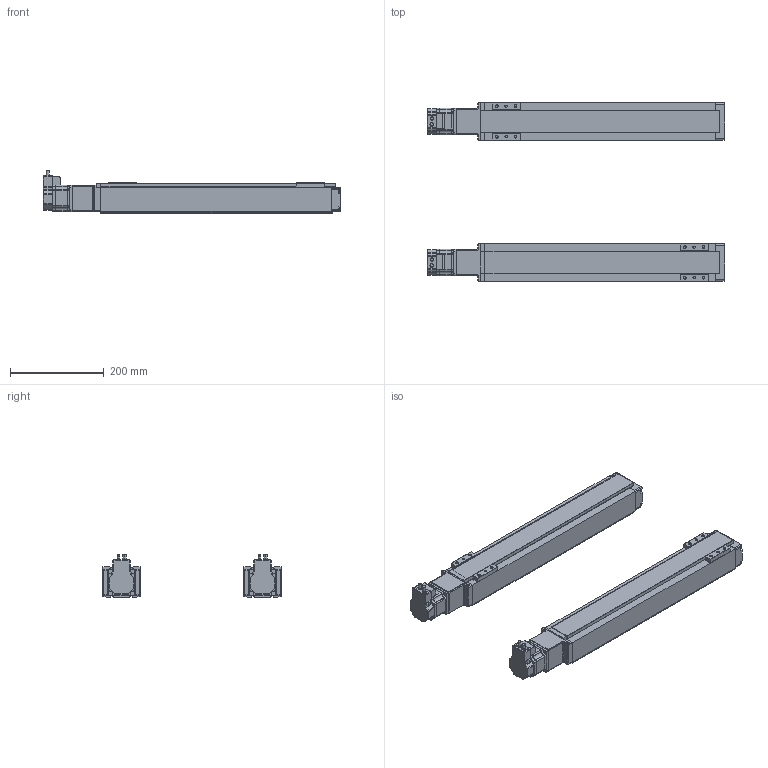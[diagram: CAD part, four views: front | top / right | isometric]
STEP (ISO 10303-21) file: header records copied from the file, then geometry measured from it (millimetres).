
FILE_DESCRIPTION(('FreeCAD Model'),'2;1');
FILE_NAME('Open CASCADE Shape Model','2023-08-01T15:16:38',('Author'),( ''),'Open CASCADE STEP processor 7.5','FreeCAD','Unknown');
FILE_SCHEMA(('AUTOMOTIVE_DESIGN { 1 0 10303 214 1 1 1 1 }'));
Length unit declared in the file: millimetre
Products named in the file (47): Unnamed; Shapes; Shapes001; Shapes002; Shapes003; Shapes004; Shapes005; Shapes006; Shapes007; Shapes008; Shapes009; Shapes010; Shapes011; Shapes012; Shapes013; Shapes014; Shapes015; Shapes016; Shapes017; Shapes018; Shapes019; Shapes020; Shapes021; Shapes022; Shapes023; Shapes024; Shapes025; Shapes026; Shapes027; Shapes028; Shapes029; Shapes030; Shapes031; Shapes032; Shapes033; Shapes034; Shapes035; Shapes036; Shapes037; Shapes038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
Assembly tree (46 placements, depth 2):
  Unnamed
    Shapes
    Shapes001
    Shapes002
    Shapes003
    Shapes004
    Shapes005
    Shapes006
    Shapes007
    Shapes008
    Shapes009
    Shapes010
    Shapes011
    Shapes012
    Shapes013
    Shapes014
    Shapes015
    Shapes016
    Shapes017
    Shapes018
    Shapes019
    Shapes020
    Shapes021
    Shapes022
    Shapes023
    Shapes024
    Shapes025
    Shapes026
    Shapes027
    Shapes028
    Shapes029
    Shapes030
    Shapes031
    Shapes032
    Shapes033
    Shapes034
    Shapes035
    Shapes036
    Shapes037
    Shapes038
    Shapes039
    Shapes040
    Shapes041
    Shapes042
    Shapes043
    Shapes044
    Shapes045
Bounding box: 632.6 x 380 x 91.1 mm (x, y, z)
Volume: 5694480.1 mm3; surface area: 866958 mm2
Topology: 46 solids, 46 shells, 1336 faces, 3478 edges, 2228 vertices
Faces by surface type: cylinder 788, plane 406, torus 104, bspline 18, sphere 16, revolution 4
Entity records: 322064 total; most frequent: CARTESIAN_POINT 251367, DIRECTION 13391, LINE 7409, VECTOR 7409, ORIENTED_EDGE 6924, PCURVE 6924, DEFINITIONAL_REPRESENTATION 6924, EDGE_CURVE 3462
